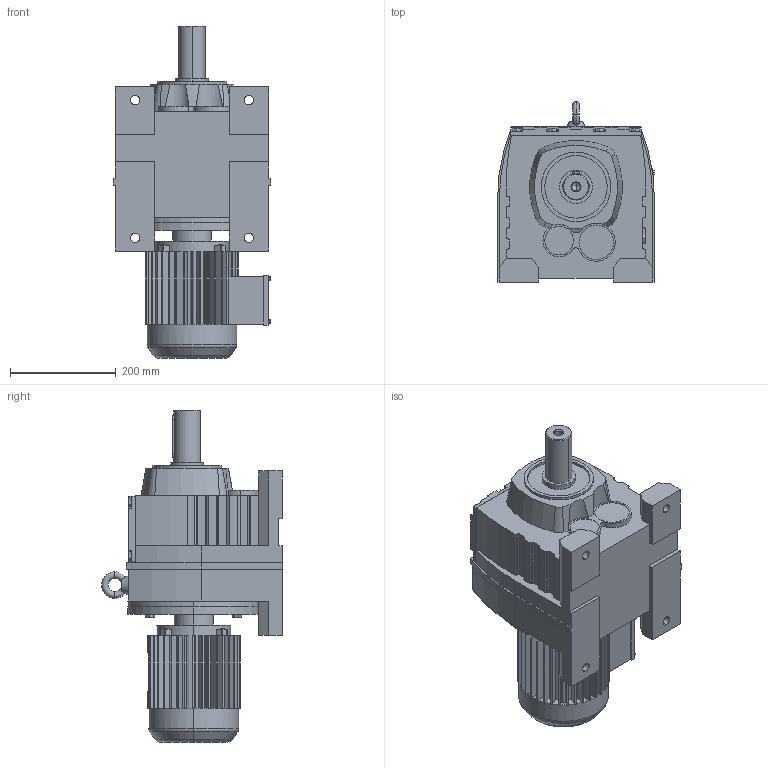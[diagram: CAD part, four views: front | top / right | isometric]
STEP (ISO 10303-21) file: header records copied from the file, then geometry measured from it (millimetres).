
FILE_DESCRIPTION(('Open CASCADE Model'),'2;1');
FILE_NAME('Open CASCADE Shape Model','2021-07-14T09:25:05',('Author'),( 'Open CASCADE'),'Open CASCADE STEP processor 6.3','Open CASCADE 6.3' ,'Unknown');
FILE_SCHEMA(('AUTOMOTIVE_DESIGN_CC2 { 1 2 10303 214 -1 1 5 4 }'));
Length unit declared in the file: millimetre
Products named in the file (3): 1_R87-Y80M; R37‵167_87.step; 萇儂_250_Y80M.step
Assembly tree (2 placements, depth 2):
  1_R87-Y80M
    R37‵167_87.step
    萇儂_250_Y80M.step
Bounding box: 297 x 341.5 x 627 mm (x, y, z)
Volume: 23796013 mm3; surface area: 964262.9 mm2
Topology: 2 solids, 2 shells, 750 faces, 2000 edges, 1291 vertices
Faces by surface type: plane 533, cylinder 187, cone 20, torus 10
Entity records: 52273 total; most frequent: CARTESIAN_POINT 14101, DIRECTION 6663, ORIENTED_EDGE 3996, PCURVE 3996, DEFINITIONAL_REPRESENTATION 3996, LINE 3735, VECTOR 3735, EDGE_CURVE 1998
